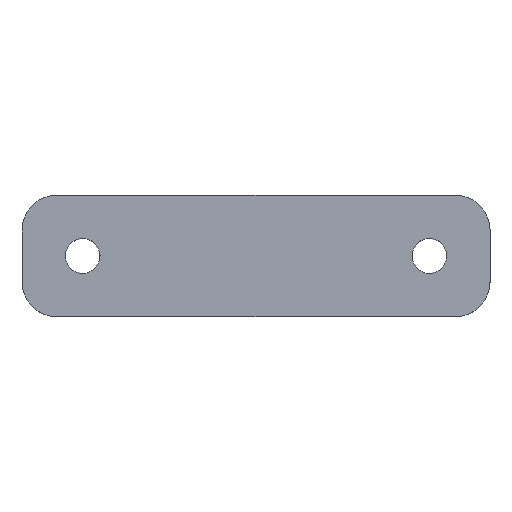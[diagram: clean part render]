
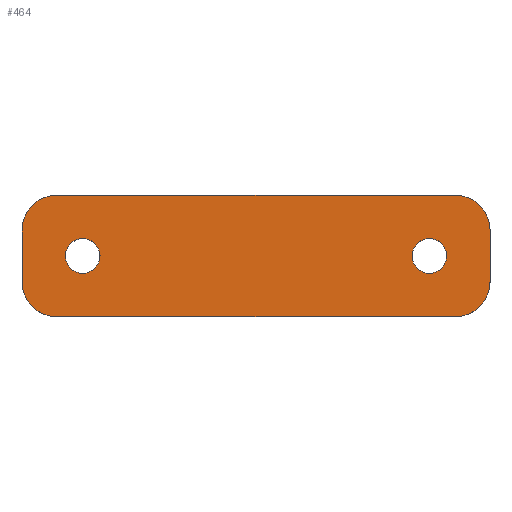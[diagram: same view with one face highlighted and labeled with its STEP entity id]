
A CAD part, top view. The second image highlights one B-rep face of the part: STEP entity #464.
In plain terms, the highlighted planar face has unit normal (0, 0, 1) as drawn and (0, 1, 0) by its records, which use the part's own axes.
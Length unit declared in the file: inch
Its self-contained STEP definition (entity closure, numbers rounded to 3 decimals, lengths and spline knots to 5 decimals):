
#1 = VERTEX_POINT ( 'NONE', #59 ) ;
#6 = CARTESIAN_POINT ( 'NONE',  ( 0.575, 0.1, 0.175 ) ) ;
#7 = AXIS2_PLACEMENT_3D ( 'NONE', #68, #339, #495 ) ;
#12 = CARTESIAN_POINT ( 'NONE',  ( -0.575, 0.1, -0.075 ) ) ;
#16 = CARTESIAN_POINT ( 'NONE',  ( 0.5, 0.1, 0.05 ) ) ;
#19 = LINE ( 'NONE', #394, #216 ) ;
#28 = EDGE_CURVE ( 'NONE', #100, #236, #120, .T. ) ;
#31 = CARTESIAN_POINT ( 'NONE',  ( -0.675, 0.1, 0.075 ) ) ;
#38 = CARTESIAN_POINT ( 'NONE',  ( 0.5, 0.1, 0. ) ) ;
#40 = EDGE_CURVE ( 'NONE', #297, #100, #181, .T. ) ;
#41 = DIRECTION ( 'NONE',  ( 0., 0., 1. ) ) ;
#44 = VECTOR ( 'NONE', #498, 39.37008 ) ;
#45 = DIRECTION ( 'NONE',  ( 0., 0., 1. ) ) ;
#59 = CARTESIAN_POINT ( 'NONE',  ( 0.675, 0.1, -0.075 ) ) ;
#68 = CARTESIAN_POINT ( 'NONE',  ( 0.575, 0.1, -0.075 ) ) ;
#69 = DIRECTION ( 'NONE',  ( 0., 0., 1. ) ) ;
#75 = VERTEX_POINT ( 'NONE', #377 ) ;
#76 = DIRECTION ( 'NONE',  ( 0., 0., -1. ) ) ;
#79 = CARTESIAN_POINT ( 'NONE',  ( -0.575, 0.1, 0.175 ) ) ;
#84 = CARTESIAN_POINT ( 'NONE',  ( -0.5, 0.1, 0. ) ) ;
#92 = ORIENTED_EDGE ( 'NONE', *, *, #454, .F. ) ;
#100 = VERTEX_POINT ( 'NONE', #31 ) ;
#102 = AXIS2_PLACEMENT_3D ( 'NONE', #84, #308, #45 ) ;
#105 = DIRECTION ( 'NONE',  ( 0., 0., -1. ) ) ;
#110 = EDGE_CURVE ( 'NONE', #254, #75, #215, .T. ) ;
#118 = EDGE_CURVE ( 'NONE', #175, #1, #369, .T. ) ;
#120 = CIRCLE ( 'NONE', #247, 0.1 ) ;
#121 = CIRCLE ( 'NONE', #333, 0.05 ) ;
#127 = AXIS2_PLACEMENT_3D ( 'NONE', #264, #418, #76 ) ;
#136 = ORIENTED_EDGE ( 'NONE', *, *, #165, .F. ) ;
#148 = DIRECTION ( 'NONE',  ( 0., 0., 1. ) ) ;
#149 = CARTESIAN_POINT ( 'NONE',  ( -0.675, 0.1, -0.175 ) ) ;
#151 = ORIENTED_EDGE ( 'NONE', *, *, #177, .T. ) ;
#156 = AXIS2_PLACEMENT_3D ( 'NONE', #12, #159, #197 ) ;
#159 = DIRECTION ( 'NONE',  ( 0., 1., 0. ) ) ;
#165 = EDGE_CURVE ( 'NONE', #320, #388, #371, .T. ) ;
#174 = DIRECTION ( 'NONE',  ( 0., 1., 0. ) ) ;
#175 = VERTEX_POINT ( 'NONE', #345 ) ;
#177 = EDGE_CURVE ( 'NONE', #442, #297, #323, .T. ) ;
#180 = DIRECTION ( 'NONE',  ( 0., 1., 0. ) ) ;
#181 = LINE ( 'NONE', #149, #235 ) ;
#189 = FACE_BOUND ( 'NONE', #252, .T. ) ;
#190 = CARTESIAN_POINT ( 'NONE',  ( -0.5, 0.1, 0. ) ) ;
#191 = CARTESIAN_POINT ( 'NONE',  ( 0., 0.1, 0. ) ) ;
#192 = DIRECTION ( 'NONE',  ( 0., 1., 0. ) ) ;
#197 = DIRECTION ( 'NONE',  ( 0., 0., 1. ) ) ;
#199 = CIRCLE ( 'NONE', #300, 0.1 ) ;
#200 = ORIENTED_EDGE ( 'NONE', *, *, #110, .F. ) ;
#201 = CARTESIAN_POINT ( 'NONE',  ( 0.575, 0.1, -0.175 ) ) ;
#206 = ORIENTED_EDGE ( 'NONE', *, *, #472, .T. ) ;
#210 = CARTESIAN_POINT ( 'NONE',  ( 0.5, 0.1, -0.05 ) ) ;
#211 = VERTEX_POINT ( 'NONE', #6 ) ;
#215 = CIRCLE ( 'NONE', #240, 0.05 ) ;
#216 = VECTOR ( 'NONE', #483, 39.37008 ) ;
#218 = ORIENTED_EDGE ( 'NONE', *, *, #118, .T. ) ;
#221 = CARTESIAN_POINT ( 'NONE',  ( -0.575, 0.1, 0.075 ) ) ;
#222 = ORIENTED_EDGE ( 'NONE', *, *, #482, .T. ) ;
#232 = DIRECTION ( 'NONE',  ( 0., 1., 0. ) ) ;
#235 = VECTOR ( 'NONE', #379, 39.37008 ) ;
#236 = VERTEX_POINT ( 'NONE', #79 ) ;
#240 = AXIS2_PLACEMENT_3D ( 'NONE', #190, #192, #148 ) ;
#247 = AXIS2_PLACEMENT_3D ( 'NONE', #221, #232, #69 ) ;
#252 = EDGE_LOOP ( 'NONE', ( #92, #136 ) ) ;
#253 = DIRECTION ( 'NONE',  ( 0., 0., 1. ) ) ;
#254 = VERTEX_POINT ( 'NONE', #384 ) ;
#258 = EDGE_CURVE ( 'NONE', #75, #254, #313, .T. ) ;
#264 = CARTESIAN_POINT ( 'NONE',  ( 0.5, 0.1, 0. ) ) ;
#286 = VERTEX_POINT ( 'NONE', #201 ) ;
#291 = AXIS2_PLACEMENT_3D ( 'NONE', #191, #180, #41 ) ;
#295 = PLANE ( 'NONE',  #291 ) ;
#297 = VERTEX_POINT ( 'NONE', #321 ) ;
#300 = AXIS2_PLACEMENT_3D ( 'NONE', #395, #174, #253 ) ;
#307 = VECTOR ( 'NONE', #331, 39.37008 ) ;
#308 = DIRECTION ( 'NONE',  ( 0., 1., 0. ) ) ;
#313 = CIRCLE ( 'NONE', #102, 0.05 ) ;
#320 = VERTEX_POINT ( 'NONE', #210 ) ;
#321 = CARTESIAN_POINT ( 'NONE',  ( -0.675, 0.1, -0.075 ) ) ;
#323 = CIRCLE ( 'NONE', #156, 0.1 ) ;
#325 = CIRCLE ( 'NONE', #7, 0.1 ) ;
#331 = DIRECTION ( 'NONE',  ( 0., 0., -1. ) ) ;
#333 = AXIS2_PLACEMENT_3D ( 'NONE', #38, #486, #105 ) ;
#334 = CARTESIAN_POINT ( 'NONE',  ( 0.675, 0.1, -0.175 ) ) ;
#335 = CARTESIAN_POINT ( 'NONE',  ( -0.675, 0.1, 0.175 ) ) ;
#337 = ORIENTED_EDGE ( 'NONE', *, *, #258, .F. ) ;
#339 = DIRECTION ( 'NONE',  ( 0., 1., 0. ) ) ;
#345 = CARTESIAN_POINT ( 'NONE',  ( 0.675, 0.1, 0.075 ) ) ;
#363 = EDGE_LOOP ( 'NONE', ( #200, #337 ) ) ;
#364 = EDGE_CURVE ( 'NONE', #286, #442, #19, .T. ) ;
#369 = LINE ( 'NONE', #334, #307 ) ;
#371 = CIRCLE ( 'NONE', #127, 0.05 ) ;
#377 = CARTESIAN_POINT ( 'NONE',  ( -0.5, 0.1, -0.05 ) ) ;
#379 = DIRECTION ( 'NONE',  ( 0., 0., 1. ) ) ;
#384 = CARTESIAN_POINT ( 'NONE',  ( -0.5, 0.1, 0.05 ) ) ;
#388 = VERTEX_POINT ( 'NONE', #16 ) ;
#392 = ORIENTED_EDGE ( 'NONE', *, *, #420, .T. ) ;
#394 = CARTESIAN_POINT ( 'NONE',  ( -0.675, 0.1, -0.175 ) ) ;
#395 = CARTESIAN_POINT ( 'NONE',  ( 0.575, 0.1, 0.075 ) ) ;
#409 = FACE_OUTER_BOUND ( 'NONE', #462, .T. ) ;
#418 = DIRECTION ( 'NONE',  ( 0., 1., 0. ) ) ;
#420 = EDGE_CURVE ( 'NONE', #211, #175, #199, .T. ) ;
#422 = ORIENTED_EDGE ( 'NONE', *, *, #364, .T. ) ;
#430 = ORIENTED_EDGE ( 'NONE', *, *, #40, .T. ) ;
#442 = VERTEX_POINT ( 'NONE', #471 ) ;
#444 = LINE ( 'NONE', #335, #44 ) ;
#446 = ORIENTED_EDGE ( 'NONE', *, *, #28, .T. ) ;
#454 = EDGE_CURVE ( 'NONE', #388, #320, #121, .T. ) ;
#455 = FACE_BOUND ( 'NONE', #363, .T. ) ;
#462 = EDGE_LOOP ( 'NONE', ( #218, #222, #422, #151, #430, #446, #206, #392 ) ) ;
#464 = ADVANCED_FACE ( 'NONE', ( #455, #189, #409 ), #295, .T. ) ;
#471 = CARTESIAN_POINT ( 'NONE',  ( -0.575, 0.1, -0.175 ) ) ;
#472 = EDGE_CURVE ( 'NONE', #236, #211, #444, .T. ) ;
#482 = EDGE_CURVE ( 'NONE', #1, #286, #325, .T. ) ;
#483 = DIRECTION ( 'NONE',  ( -1., 0., 0. ) ) ;
#486 = DIRECTION ( 'NONE',  ( 0., 1., 0. ) ) ;
#495 = DIRECTION ( 'NONE',  ( 0., 0., 1. ) ) ;
#498 = DIRECTION ( 'NONE',  ( 1., 0., 0. ) ) ;
